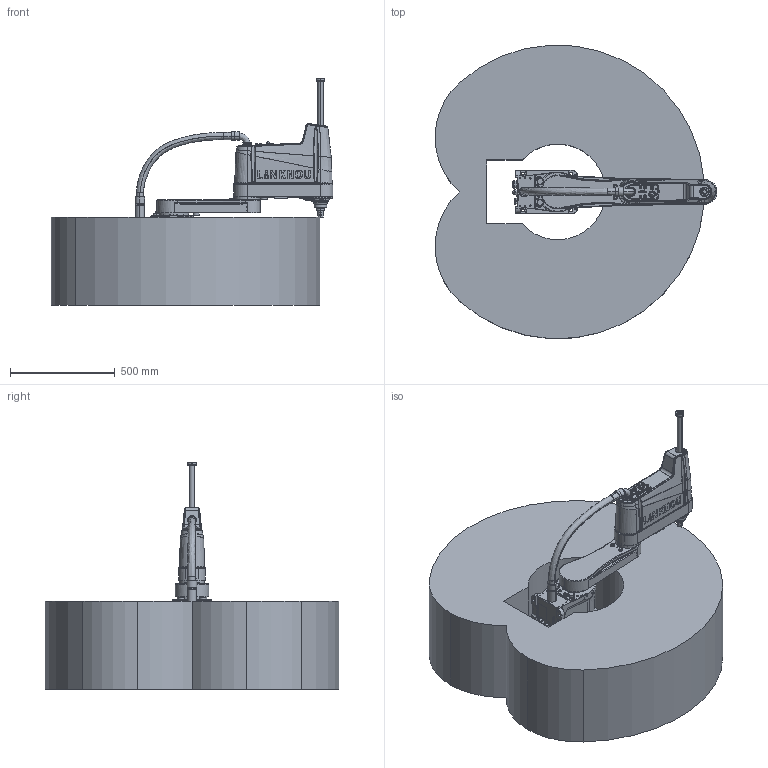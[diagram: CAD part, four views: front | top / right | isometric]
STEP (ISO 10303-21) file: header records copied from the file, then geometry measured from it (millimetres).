
FILE_DESCRIPTION (( 'STEP AP203' ), '1' );
FILE_NAME ('TM10A-R700Z42ÓÐlogo2017.step', '2023-12-22T14:14:39', ( '' ), ( '' ), 'SwSTEP 2.0', 'SolidWorks 2017', '' );
FILE_SCHEMA (( 'CONFIG_CONTROL_DESIGN' ));
Products named in the file (7): ｸｴｼ ｸｴｼ ｸｴｼ TM10A-ｵﾗﾗTM10A-R700Z42ﾓﾐlogo2017; ｸｴｼ TM10A-R700ｴﾛ^TM10A-R700Z42ﾓﾐlogo2017; TM10A-R700Z42ÓÐlogo2017; ｸｴｼ TM10A-R800Z42ﾔﾋｶｯｷｶﾎｧﾍｼ^TM10A-R700Z42ﾓﾐlogo2017; ¸´¼þ TM10A-R700¹Ü^TM10A-R700Z42ÓÐlogo2017; ｸｴｼ TM10Aﾐ｡ｱﾛﾓﾐlogo^TM10A-R700Z42ﾓﾐlogo2017; ｸｴｼ 25ﾋｿｸﾋ660ﾊﾄ｣ﾍｼ^TM10A-R700Z42ﾓﾐlogo2017
Assembly tree (6 placements, depth 2):
  TM10A-R700Z42ÓÐlogo2017
    ｸｴｼ ｸｴｼ ｸｴｼ TM10A-ｵﾗﾗTM10A-R700Z42ﾓﾐlogo2017
    ｸｴｼ TM10A-R700ｴﾛ^TM10A-R700Z42ﾓﾐlogo2017
    ｸｴｼ TM10Aﾐ｡ｱﾛﾓﾐlogo^TM10A-R700Z42ﾓﾐlogo2017
    ｸｴｼ 25ﾋｿｸﾋ660ﾊﾄ｣ﾍｼ^TM10A-R700Z42ﾓﾐlogo2017
    ¸´¼þ TM10A-R700¹Ü^TM10A-R700Z42ÓÐlogo2017
    ｸｴｼ TM10A-R800Z42ﾔﾋｶｯｷｶﾎｧﾍｼ^TM10A-R700Z42ﾓﾐlogo2017
Bounding box: 1343.2 x 1398.22 x 1080 mm (x, y, z)
Volume: 544824878.5 mm3; surface area: 7043748.4 mm2
Topology: 42 solids, 43 shells, 3179 faces, 8074 edges, 5094 vertices
Faces by surface type: plane 962, bspline 837, cylinder 810, cone 569, torus 1
Entity records: 187709 total; most frequent: CARTESIAN_POINT 119549, ORIENTED_EDGE 15930, DIRECTION 11017, EDGE_CURVE 7965, VERTEX_POINT 5094, AXIS2_PLACEMENT_3D 4128, EDGE_LOOP 3529, ADVANCED_FACE 3179
